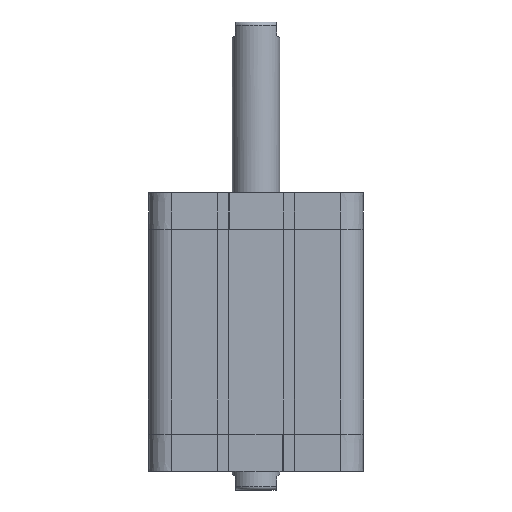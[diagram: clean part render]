
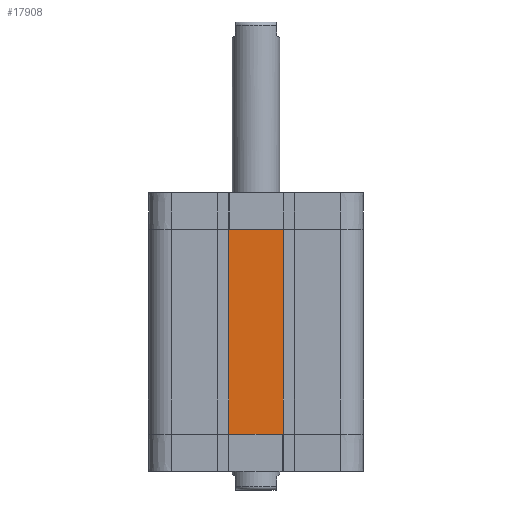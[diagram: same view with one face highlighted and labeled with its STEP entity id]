
A CAD part, left-side view. The second image highlights one B-rep face of the part: STEP entity #17908.
In plain terms, the highlighted planar face has unit normal (-1, 0, 0).
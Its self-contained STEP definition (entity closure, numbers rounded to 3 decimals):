
#930=PLANE('',#18924);
#1708=LINE('',#26273,#2826);
#1709=LINE('',#26276,#2827);
#1710=LINE('',#26278,#2828);
#1711=LINE('',#26280,#2829);
#2826=VECTOR('',#21367,1000.);
#2827=VECTOR('',#21368,1000.);
#2828=VECTOR('',#21369,1000.);
#2829=VECTOR('',#21370,1000.);
#5228=ORIENTED_EDGE('',*,*,#8250,.F.);
#5229=ORIENTED_EDGE('',*,*,#8251,.T.);
#5230=ORIENTED_EDGE('',*,*,#8252,.F.);
#5231=ORIENTED_EDGE('',*,*,#8253,.T.);
#8250=EDGE_CURVE('',#9876,#9877,#1708,.T.);
#8251=EDGE_CURVE('',#9876,#9878,#1709,.T.);
#8252=EDGE_CURVE('',#9879,#9878,#1710,.T.);
#8253=EDGE_CURVE('',#9879,#9877,#1711,.T.);
#9876=VERTEX_POINT('',#26274);
#9877=VERTEX_POINT('',#26275);
#9878=VERTEX_POINT('',#26277);
#9879=VERTEX_POINT('',#26279);
#11463=EDGE_LOOP('',(#5228,#5229,#5230,#5231));
#12407=FACE_BOUND('',#11463,.T.);
#17908=ADVANCED_FACE('',(#12407),#930,.T.);
#18924=AXIS2_PLACEMENT_3D('',#26272,#21365,#21366);
#21365=DIRECTION('',(-1.,0.,0.));
#21366=DIRECTION('',(0.,0.,1.));
#21367=DIRECTION('',(0.,0.,1.));
#21368=DIRECTION('',(0.,-1.,0.));
#21369=DIRECTION('',(0.,0.,-1.));
#21370=DIRECTION('',(0.,1.,0.));
#26272=CARTESIAN_POINT('',(-56.75,-56.75,0.));
#26273=CARTESIAN_POINT('',(-56.75,14.5,-16.5));
#26274=CARTESIAN_POINT('',(-56.75,14.5,-91.5));
#26275=CARTESIAN_POINT('',(-56.75,14.5,16.5));
#26276=CARTESIAN_POINT('',(-56.75,14.5,-91.5));
#26277=CARTESIAN_POINT('',(-56.75,-14.5,-91.5));
#26278=CARTESIAN_POINT('',(-56.75,-14.5,16.5));
#26279=CARTESIAN_POINT('',(-56.75,-14.5,16.5));
#26280=CARTESIAN_POINT('',(-56.75,-14.5,16.5));
